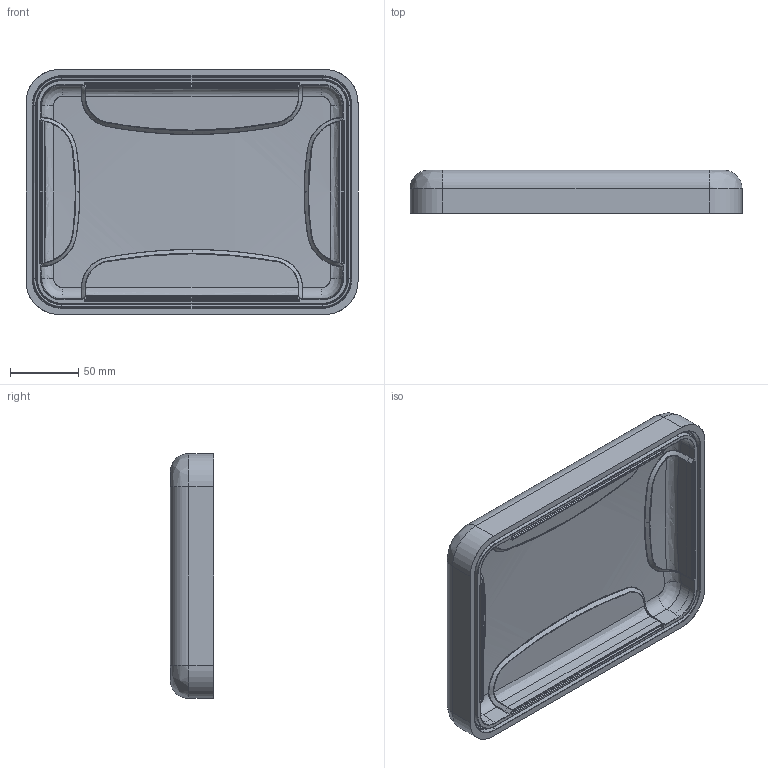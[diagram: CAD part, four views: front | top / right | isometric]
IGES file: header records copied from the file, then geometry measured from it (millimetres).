
Start section: SolidWorks IGES file using analytic representation for surfaces
Global section: file name: C:\Users\bcoley\Desktop\Cases from server\Cases\904\NDA Required\NANUK_904_Top_INNER SURFS_IGES.IGS; native system: SolidWorks 2012; preprocessor: SolidWorks 2012; author: bcoley; date: 130313.220838; units: inch
Bounding box: 242.98 x 31.75 x 179.23 mm (x, y, z)
Surface area: 133893.7 mm2 (no closed solid volume)
Topology: 0 solids, 0 shells, 750 faces, 9917 edges, 9917 vertices
Faces by surface type: bspline 621, revolution 129
